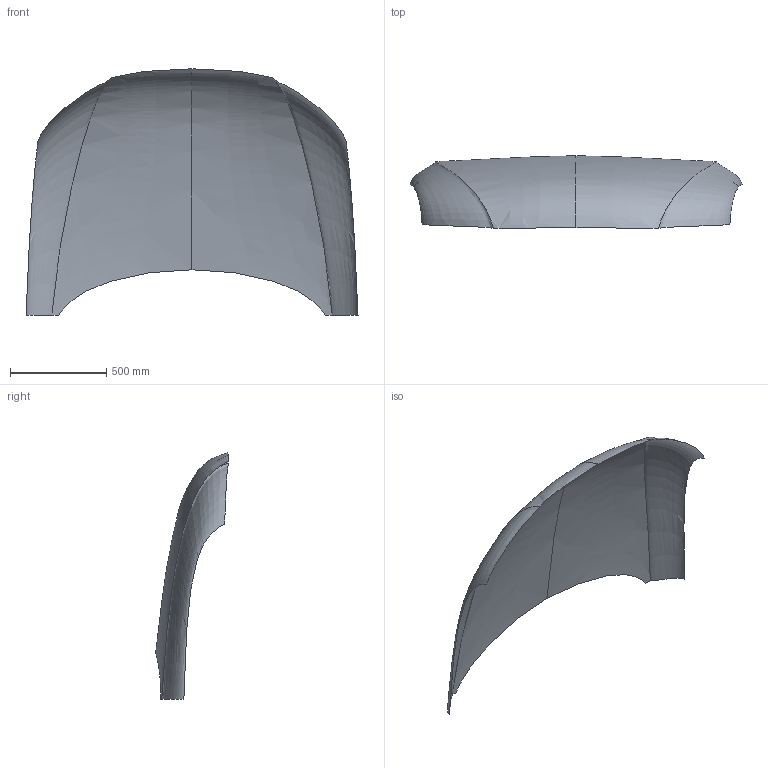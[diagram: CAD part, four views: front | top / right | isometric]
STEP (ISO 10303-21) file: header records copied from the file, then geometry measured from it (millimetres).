
FILE_DESCRIPTION( ( 'STEP Version 203' ), '1' );
FILE_NAME( 'E:/ANSYS_WB_14.0/ANSYS_WB_14.0_Manuscript - Copy/ANSYS_WB/C08/Exercises/Exr01/c08_ansWB_exr01.stp', '09/30/19 02:33:55', ( 'SK-CADsoft' ), ( ' ' ), 'PSStep 21.0.47', 'DesignModeler STEP Output', ' ' );
FILE_SCHEMA( ( 'CONFIG_CONTROL_DESIGN' ) );
Length unit declared in the file: metre
Products named in the file (1): 1
Bounding box: 1722.31 x 377.68 x 1278.32 mm (x, y, z)
Surface area: 2002025.7 mm2 (no closed solid volume)
Topology: 0 solids, 4 shells, 4 faces, 20 edges, 18 vertices
Faces by surface type: bspline 4
Entity records: 3960 total; most frequent: CARTESIAN_POINT 3821, ORIENTED_EDGE 18, EDGE_CURVE 18, VERTEX_POINT 18, B_SPLINE_CURVE_WITH_KNOTS 18, CC_DESIGN_PERSON_AND_ORGANIZATION_ASSIGNMENT 5, PERSON_AND_ORGANIZATION_ROLE 4, FACE_SURFACE 4
